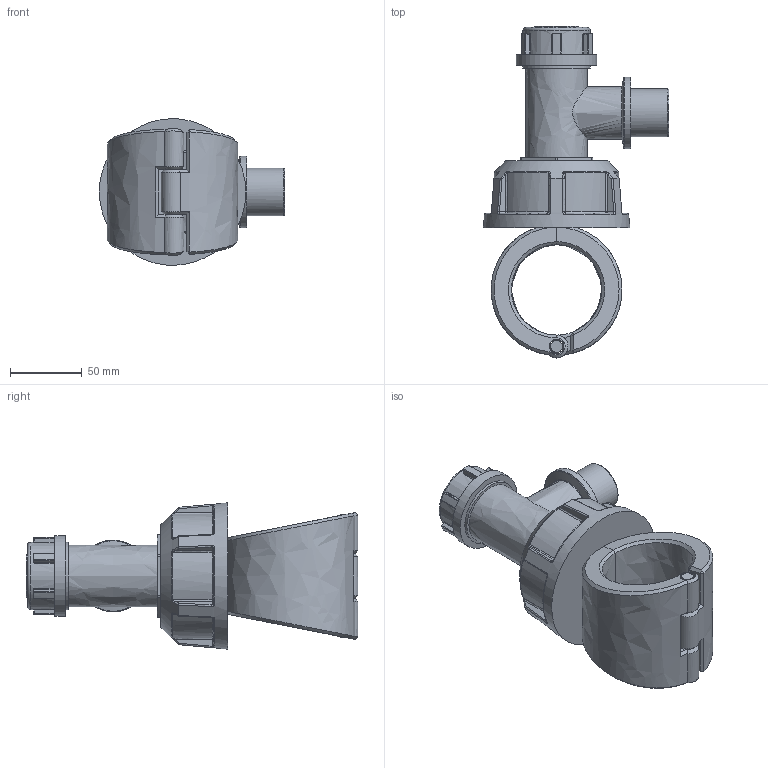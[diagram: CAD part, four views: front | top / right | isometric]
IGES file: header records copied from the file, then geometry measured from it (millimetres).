
Global section: file name: 1631R0063010; native system: Autodesk Inventor 2019; preprocessor: unknown; author: comp2; date: 20220203.120609; units: millimetre
Bounding box: 129 x 231 x 101.9 mm (x, y, z)
Volume: 726604.8 mm3; surface area: 103061.2 mm2
Topology: 4 solids, 4 shells, 341 faces, 833 edges, 509 vertices
Faces by surface type: bspline 341
